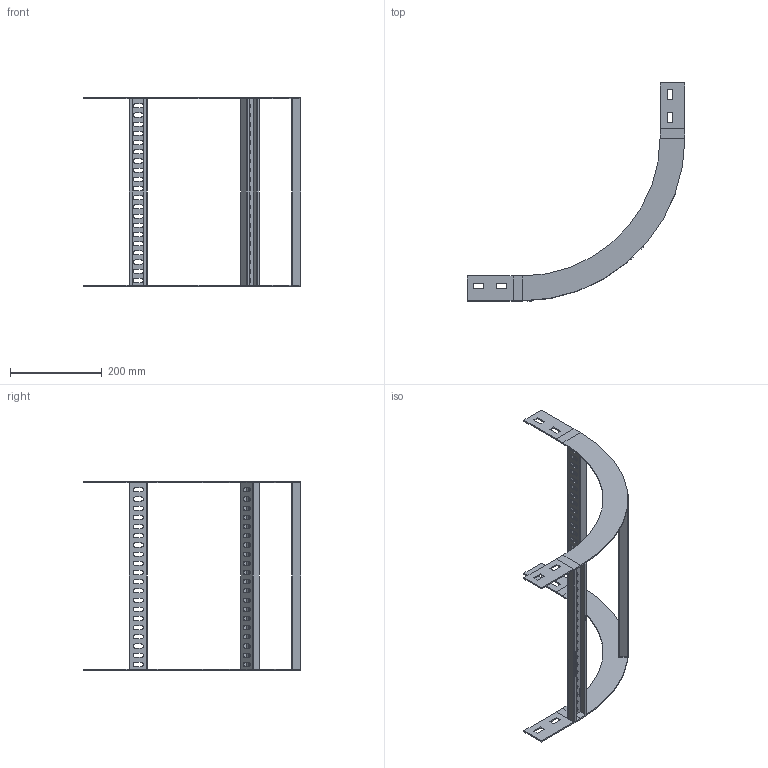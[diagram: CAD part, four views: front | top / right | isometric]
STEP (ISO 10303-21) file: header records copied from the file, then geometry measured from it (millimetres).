
FILE_DESCRIPTION(/* description */ ('','CAx-IF Rec.Pracs.---Representation and Presentation of Product Manufacturing Information (PMI)---4.0---2014-10-13'),/* implementation_level */ '2;1');
FILE_NAME(/* name */ 'Eurostrut_EIR60-400-90-300_Inside Riser for Cable Ladder ECL.step',/* time_stamp */ '2026-09-03T10:03:46+02:00',/* author */ (''),/* organization */ (''),/* preprocessor_version */ 'ST-DEVELOPER v20.1',/* originating_system */ 'Autodesk Revit 2027 27.2.0.39',/* authorisation */ '');
FILE_SCHEMA (('AP242_MANAGED_MODEL_BASED_3D_ENGINEERING_MIM_LF { 1 0 10303 442 2 1 4 }'));
Length unit declared in the file: millimetre
Products named in the file (8): TopLevelAssembly; Sweep; Extrusion; Extrusion_1; Extrusion_2; Extrusion_3; Eurostrut_Cable Ladder_Rung_V2 Vertical_Array EIR_Slotted; Eurostrut_Cable Ladder_Accessory End_54-94-142
Assembly tree (10 placements, depth 2):
  TopLevelAssembly
    Sweep
    Extrusion
    Extrusion_1
    Extrusion_2
    Extrusion_3
    Eurostrut_Cable Ladder_Rung_V2 Vertical_Array EIR_Slotted
    Eurostrut_Cable Ladder_Accessory End_54-94-142  x4
Bounding box: 474 x 474 x 411 mm (x, y, z)
Volume: 381448.4 mm3; surface area: 373266.5 mm2
Topology: 13 solids, 13 shells, 386 faces, 1080 edges, 720 vertices
Faces by surface type: plane 250, bspline 120, cylinder 16
Entity records: 14962 total; most frequent: CARTESIAN_POINT 5702, ORIENTED_EDGE 1944, DIRECTION 1728, EDGE_CURVE 972, LINE 700, VECTOR 700, VERTEX_POINT 648, AXIS2_PLACEMENT_3D 514
